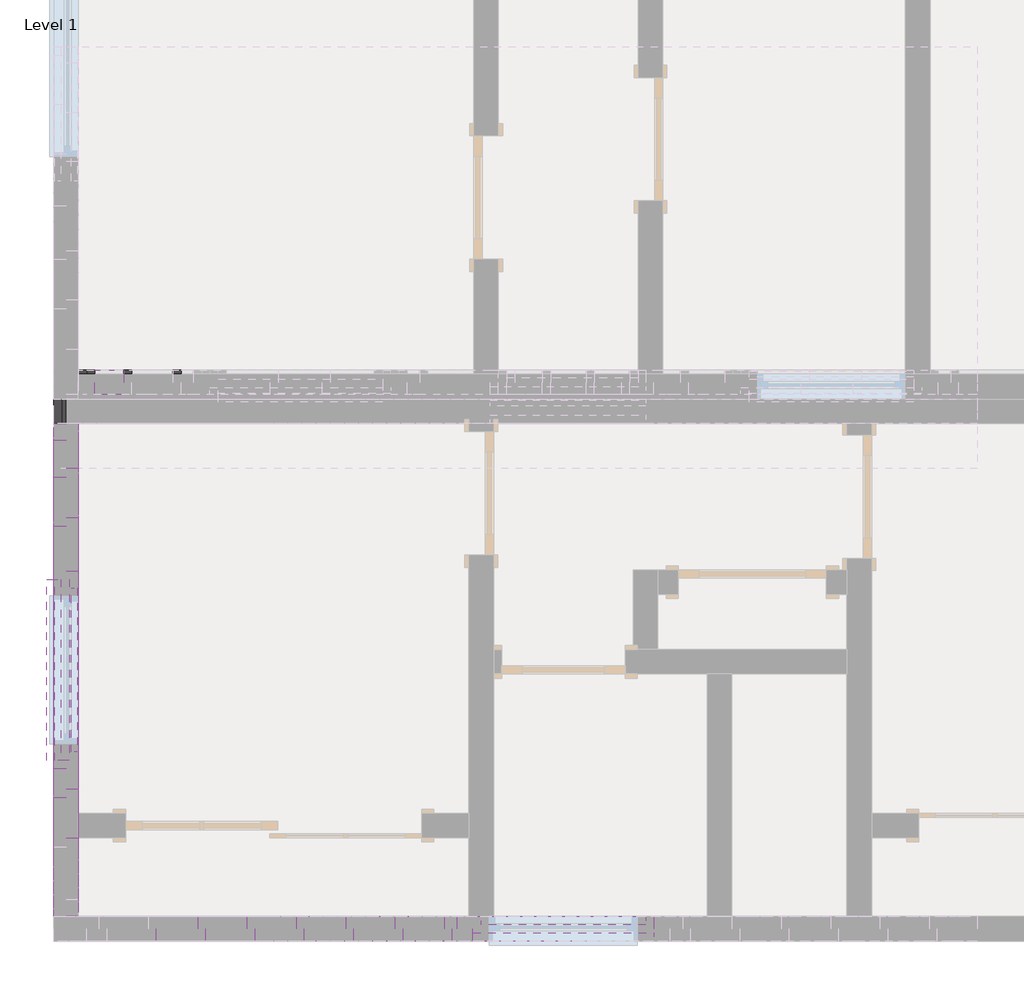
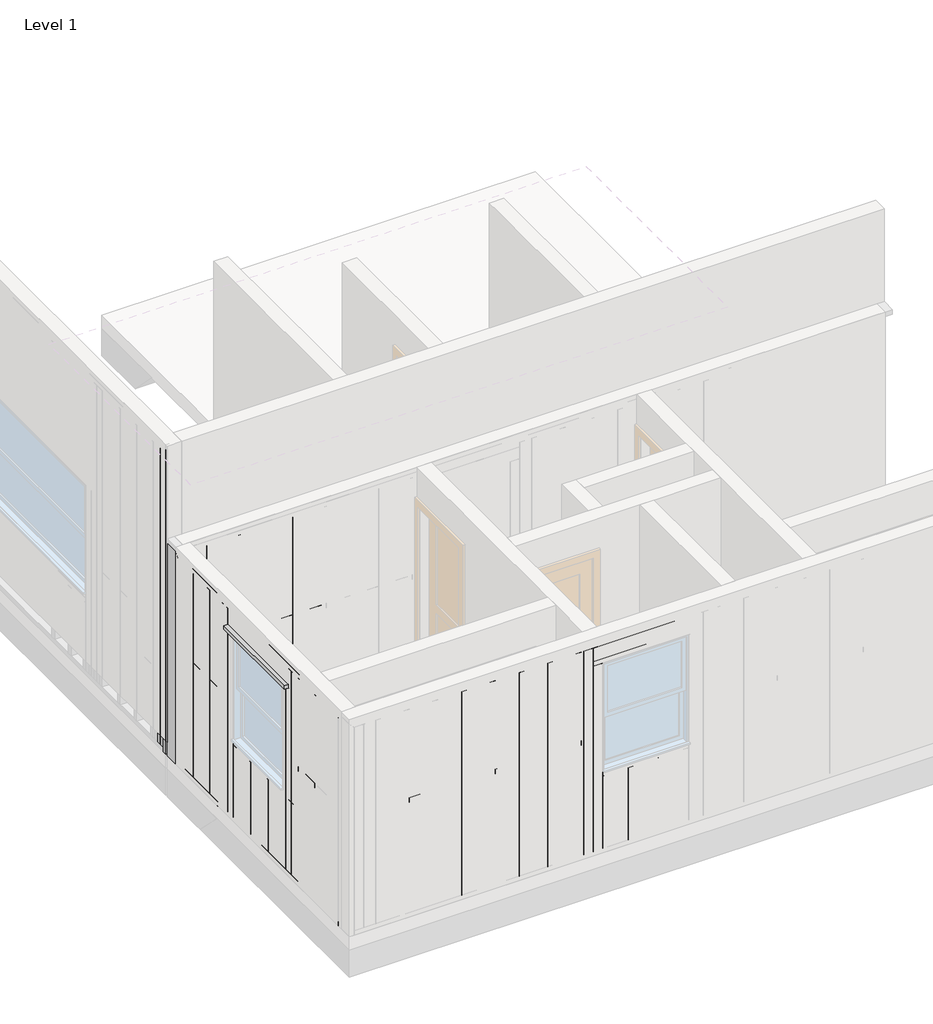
# One storey, part 3 of 12: 101 beams.
"""IFC4 building model written with IfcOpenShell, lengths in millimetres."""

from ifc_helpers import new_model, si_unit, frame, origin, origin_with_axes, place, context, project, spatial, polyline, outline, extrude, transform, mapped, element, save
from components import beam_5118db80, beam_bc29a762, beam_a10b1f24, beam_103141cb, beam_558964e0, beam_a7231d91, beam_303ef41e, beam_4715e774, beam_b7962ac8, beam_15472744, beam_b2f74068, beam_e05c4371, beam_19b97b81, beam_c305210a, beam_e041d9c6, beam_5d9cf81a, beam_ff6ccf8b, beam_9f6d142c, beam_b94c8671, beam_a4d90c35, beam_b09705a2, beam_b4be7421, beam_9d6aa0d6, beam_51b55d0f, beam_aca249a6, beam_68e625a2, beam_1fd180ee

model = new_model("IFC4")

# Units and contexts
model_context = context("Model", 3, world=origin())
ifc_project = project(units=[si_unit("LENGTHUNIT", "METRE", prefix="MILLI")], contexts=[model_context])

# Site, building, storey
site = spatial("IfcSite", under=ifc_project)
building = spatial("IfcBuilding", under=site)
storey = spatial("IfcBuildingStorey", under=building, Name="Level 1", Elevation=0.0)

# Beams
placement = place(None, origin())
element("IfcBeam", 1, ObjectType="Rectangular(Timber)-Beam : Timber_0' - 1 31/32\" x0' - 5 29/32\" _ContentGenerator", at=placement, inside=storey, context=model_context, shape_type="SweptSolid", body=[
    extrude(outline(polyline([(-8989.6690766, -28386.5763369), (-8938.8690766, -28386.5763369), (-8938.8690766, -28538.9763369), (-8989.6690766, -28538.9763369), (-8989.6690766, -28386.5763369)])), frame((0.0, 0.0, 50.8), z_axis=(0.0, 0.0, 1.0), x_axis=(1.0, 0.0, 0.0)), (0.0, 0.0, 1.0), 2286.0),
])
element("IfcBeam", 2, ObjectType="Rectangular(Timber)-Beam : Timber_0' - 1 31/32\" x0' - 5 29/32\" _ContentGenerator", at=placement, inside=storey, context=model_context, shape_type="SweptSolid", body=[
    extrude(outline(polyline([(-28335.7813369, 2336.8), (-28386.5813369, 2387.6), (-25338.5863369, 2387.6), (-25389.3863369, 2336.8), (-28335.7813369, 2336.8)])), frame((-11529.6790766, 0.0, 0.0), z_axis=(1.0, 0.0, 0.0), x_axis=(0.0, 1.0, 0.0)), (0.0, 0.0, 1.0), 152.4),
])
element("IfcBeam", 3, ObjectType="Rectangular(Timber)-Beam : Timber_0' - 1 31/32\" x0' - 5 29/32\" _ContentGenerator", at=placement, inside=storey, context=model_context, shape_type="SweptSolid", body=[
    extrude(outline(polyline([(-25389.3863369, 2336.8), (-25338.5863369, 2387.6), (-25338.5863369, 0.0), (-25389.3863369, 0.0), (-25389.3863369, 2336.8)])), frame((-11529.6790766, 0.0, 0.0), z_axis=(1.0, 0.0, 0.0), x_axis=(0.0, 1.0, 0.0)), (0.0, 0.0, 1.0), 152.4),
])
element("IfcBeam", 4, ObjectType="Rectangular(Timber)-Beam : Timber_0' - 1 31/32\" x0' - 5 29/32\" _ContentGenerator", at=placement, inside=storey, context=model_context, shape_type="SweptSolid", body=[
    extrude(outline(polyline([(-11377.2790766, -26252.9863369), (-11377.2790766, -26303.7863369), (-11529.6790766, -26303.7863369), (-11529.6790766, -26252.9863369), (-11377.2790766, -26252.9863369)])), frame((0.0, 0.0, 50.8), z_axis=(0.0, 0.0, 1.0), x_axis=(1.0, 0.0, 0.0)), (0.0, 0.0, 1.0), 2286.0),
])
element("IfcBeam", 5, ObjectType="Rectangular(Timber)-Beam : Timber_0' - 1 31/32\" x0' - 5 29/32\" _ContentGenerator", at=placement, inside=storey, context=model_context, shape_type="SweptSolid", body=[
    extrude(outline(polyline([(-11377.2790766, -27421.3663369), (-11377.2790766, -27472.1663369), (-11529.6790766, -27472.1663369), (-11529.6790766, -27421.3663369), (-11377.2790766, -27421.3663369)])), frame((0.0, 0.0, 50.8), z_axis=(0.0, 0.0, 1.0), x_axis=(1.0, 0.0, 0.0)), (0.0, 0.0, 1.0), 2286.0),
])
element("IfcBeam", 6, ObjectType="Rectangular(Timber)-Beam : Timber_0' - 1 31/32\" x0' - 5 29/32\" _ContentGenerator", at=placement, inside=storey, context=model_context, shape_type="SweptSolid", body=[
    extrude(outline(polyline([(2336.8, -11478.8840766), (2387.6, -11529.6840766), (0.0, -11529.6840766), (0.0, -11478.8840766), (2336.8, -11478.8840766)])), frame((0.0, -25338.5763369, 0.0), z_axis=(0.0, 1.0, 0.0), x_axis=(0.0, 0.0, 1.0)), (0.0, 0.0, 1.0), 152.4),
])
element("IfcBeam", 7, ObjectType="Rectangular(Timber)-Beam : Timber_0' - 1 31/32\" x0' - 5 29/32\" _ContentGenerator", at=placement, inside=storey, context=model_context, shape_type="SweptSolid", body=[
    extrude(outline(polyline([(3380.856975, -11326.4690766), (3431.656975, -11377.2690766), (0.0, -11377.2690766), (0.0, -11326.4690766), (3380.856975, -11326.4690766)])), frame((0.0, -25160.7763369, 0.0), z_axis=(0.0, 1.0, 0.0), x_axis=(0.0, 0.0, 1.0)), (0.0, 0.0, 1.0), 152.4),
])
element("IfcBeam", 8, ObjectType="Rectangular(Timber)-Beam : Timber_0' - 1 31/32\" x0' - 5 29/32\" _ContentGenerator", at=placement, inside=storey, context=model_context, shape_type="SweptSolid", body=[
    extrude(outline(polyline([(-11529.6790766, -25389.3863369), (-11377.2790766, -25389.3863369), (-11377.2790766, -28335.7813369), (-11529.6790766, -28335.7813369), (-11529.6790766, -25389.3863369)])), origin_with_axes(), (0.0, 0.0, 1.0), 50.8),
])
element("IfcBeam", 9, ObjectType="Rectangular(Timber)-Beam : Timber_0' - 1 31/32\" x0' - 5 29/32\" _ContentGenerator", at=placement, inside=storey, context=model_context, shape_type="SweptSolid", body=[
    extrude(outline(polyline([(-8781.3890766, -25186.1763369), (-8781.3890766, -25338.5763369), (-11478.8840766, -25338.5763369), (-11478.8840766, -25186.1763369), (-8781.3890766, -25186.1763369)])), origin_with_axes(), (0.0, 0.0, 1.0), 50.8),
])
element("IfcBeam", 10, ObjectType="Rectangular(Timber)-Beam : Timber_0' - 1 31/32\" x0' - 5 29/32\" _ContentGenerator", at=placement, inside=storey, context=model_context, shape_type="SweptSolid", body=[
    extrude(outline(polyline([(-25160.7813369, 3429.0), (-25109.9813369, 3378.2), (-25109.9813369, 0.0), (-25160.7813369, 0.0), (-25160.7813369, 3429.0)])), frame((-11529.6790766, 0.0, 0.0), z_axis=(1.0, 0.0, 0.0), x_axis=(0.0, 1.0, 0.0)), (0.0, 0.0, 1.0), 152.4),
])
element("IfcBeam", 11, ObjectType="Rectangular(Timber)-Beam : Timber_0' - 1 31/32\" x0' - 5 29/32\" _ContentGenerator", at=placement, inside=storey, context=model_context, shape_type="SweptSolid", body=[
    extrude(outline(polyline([(-11377.2790766, -25389.3863369), (-11377.2790766, -25440.1863369), (-11529.6790766, -25440.1863369), (-11529.6790766, -25389.3863369), (-11377.2790766, -25389.3863369)])), frame((0.0, 0.0, 50.8), z_axis=(0.0, 0.0, 1.0), x_axis=(1.0, 0.0, 0.0)), (0.0, 0.0, 1.0), 2286.0),
])
element("IfcBeam", 12, ObjectType="Rectangular(Timber)-Beam : Timber_0' - 1 31/32\" x0' - 5 29/32\" _ContentGenerator", at=placement, inside=storey, context=model_context, shape_type="SweptSolid", body=[
    extrude(outline(polyline([(-11377.2790766, -26202.1863369), (-11377.2790766, -26252.9863369), (-11529.6790766, -26252.9863369), (-11529.6790766, -26202.1863369), (-11377.2790766, -26202.1863369)])), frame((0.0, 0.0, 50.8), z_axis=(0.0, 0.0, 1.0), x_axis=(1.0, 0.0, 0.0)), (0.0, 0.0, 1.0), 2286.0),
])
element("IfcBeam", 13, ObjectType="Rectangular(Timber)-Beam : Timber_0' - 1 31/32\" x0' - 5 29/32\" _ContentGenerator", at=placement, inside=storey, context=model_context, shape_type="SweptSolid", body=[
    extrude(outline(polyline([(-11377.2790766, -27472.1463369), (-11377.2790766, -27522.9463369), (-11529.6790766, -27522.9463369), (-11529.6790766, -27472.1463369), (-11377.2790766, -27472.1463369)])), frame((0.0, 0.0, 50.8), z_axis=(0.0, 0.0, 1.0), x_axis=(1.0, 0.0, 0.0)), (0.0, 0.0, 1.0), 2286.0),
])
element("IfcBeam", 14, ObjectType="Rectangular(Timber)-Beam : Timber_0' - 1 31/32\" x0' - 5 29/32\" _ContentGenerator", at=placement, inside=storey, context=model_context, shape_type="SweptSolid", body=[
    extrude(outline(polyline([(-9040.4590766, -28386.5763369), (-8989.6590766, -28386.5763369), (-8989.6590766, -28538.9763369), (-9040.4590766, -28538.9763369), (-9040.4590766, -28386.5763369)])), frame((0.0, 0.0, 50.8), z_axis=(0.0, 0.0, 1.0), x_axis=(1.0, 0.0, 0.0)), (0.0, 0.0, 1.0), 2286.0),
])
beam_shape = beam_5118db80(model_context)
element("IfcBeam", 15, ObjectType="Rectangular(Timber)-Beam : Timber_0' - 1 31/32\" x0' - 5 29/32\" _ContentGenerator", at=placement, inside=storey, context=model_context, shape_type="MappedRepresentation", body=[
    mapped(beam_shape, transform((-11250.2740766, -25262.3763369, 1219.2), x_axis=(-1.0000000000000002, 0.0, 0.0), y_axis=(0.0, 0.0, -1.0000000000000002), z_axis=(0.0, -1.0000000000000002, 0.0))),
])
beam_2_shape = beam_bc29a762(model_context)
element("IfcBeam", 16, ObjectType="Rectangular(Timber)-Beam : Timber_0' - 1 31/32\" x0' - 5 29/32\" _ContentGenerator", at=placement, inside=storey, context=model_context, shape_type="MappedRepresentation", body=[
    mapped(beam_2_shape, transform((-11453.4790766, -26113.2813369, 1314.45), x_axis=(0.0, -1.0000000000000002, 0.0), y_axis=(0.0, 0.0, -1.0000000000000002), z_axis=(1.0000000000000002, 0.0, 0.0))),
])
beam_3_shape = beam_a10b1f24(model_context)
element("IfcBeam", 17, ObjectType="Rectangular(Timber)-Beam : Timber_0' - 1 31/32\" x0' - 5 29/32\" _ContentGenerator", at=placement, inside=storey, context=model_context, shape_type="MappedRepresentation", body=[
    mapped(beam_3_shape, transform((-8380.0790766, -28462.7763369, 2159.0), x_axis=(1.0000000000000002, 0.0, 0.0), y_axis=(0.0, 0.0, -1.0000000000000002), z_axis=(0.0, 1.0000000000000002, 0.0))),
])
element("IfcBeam", 18, ObjectType="Rectangular(Timber)-Beam : Timber_0' - 1 31/32\" x0' - 5 29/32\" _ContentGenerator", at=placement, inside=storey, context=model_context, shape_type="MappedRepresentation", body=[
    mapped(beam_3_shape, transform((-8380.0790766, -28513.5763369, 2260.6), x_axis=(1.0, 0.0, 0.0), y_axis=(0.0, 1.0, 0.0), z_axis=(0.0, 0.0, 1.0))),
])
beam_4_shape = beam_103141cb(model_context)
element("IfcBeam", 19, ObjectType="Rectangular(Timber)-Beam : Timber_0' - 1 31/32\" x0' - 5 29/32\" _ContentGenerator", at=placement, inside=storey, context=model_context, shape_type="MappedRepresentation", body=[
    mapped(beam_4_shape, transform((-9065.8690766, -28462.7763369, 1314.45), x_axis=(1.0000000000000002, 0.0, 0.0), y_axis=(0.0, 0.0, -1.0000000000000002), z_axis=(0.0, 1.0000000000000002, 0.0))),
])
beam_5_shape = beam_558964e0(model_context)
element("IfcBeam", 20, ObjectType="Rectangular(Timber)-Beam : Timber_0' - 1 31/32\" x0' - 5 29/32\" _ContentGenerator", at=placement, inside=storey, context=model_context, shape_type="MappedRepresentation", body=[
    mapped(beam_5_shape, transform((-10310.4790766, -28462.7763369, 1193.8), x_axis=(0.0, 0.0, 1.0), y_axis=(1.0, 0.0, 0.0), z_axis=(0.0, 1.0, 0.0))),
])
element("IfcBeam", 21, ObjectType="Rectangular(Timber)-Beam : Timber_0' - 1 31/32\" x0' - 5 29/32\" _ContentGenerator", at=placement, inside=storey, context=model_context, shape_type="MappedRepresentation", body=[
    mapped(beam_5_shape, transform((-10005.6790766, -28462.7763369, 1193.8), x_axis=(0.0, 0.0, 1.0), y_axis=(1.0, 0.0, 0.0), z_axis=(0.0, 1.0, 0.0))),
])
element("IfcBeam", 22, ObjectType="Rectangular(Timber)-Beam : Timber_0' - 1 31/32\" x0' - 5 29/32\" _ContentGenerator", at=placement, inside=storey, context=model_context, shape_type="MappedRepresentation", body=[
    mapped(beam_5_shape, transform((-9700.8790766, -28462.7763369, 1193.8), x_axis=(0.0, 0.0, 1.0), y_axis=(1.0, 0.0, 0.0), z_axis=(0.0, 1.0, 0.0))),
])
element("IfcBeam", 23, ObjectType="Rectangular(Timber)-Beam : Timber_0' - 1 31/32\" x0' - 5 29/32\" _ContentGenerator", at=placement, inside=storey, context=model_context, shape_type="MappedRepresentation", body=[
    mapped(beam_5_shape, transform((-9396.0790766, -28462.7763369, 1193.8), x_axis=(0.0, 0.0, 1.0), y_axis=(1.0, 0.0, 0.0), z_axis=(0.0, 1.0, 0.0))),
])
element("IfcBeam", 24, ObjectType="Rectangular(Timber)-Beam : Timber_0' - 1 31/32\" x0' - 5 29/32\" _ContentGenerator", at=placement, inside=storey, context=model_context, shape_type="MappedRepresentation", body=[
    mapped(beam_5_shape, transform((-9091.2790766, -28462.7763369, 1193.8), x_axis=(0.0, 0.0, 1.0), y_axis=(1.0, 0.0, 0.0), z_axis=(0.0, 1.0, 0.0))),
])
element("IfcBeam", 25, ObjectType="Rectangular(Timber)-Beam : Timber_0' - 1 31/32\" x0' - 5 29/32\" _ContentGenerator", at=placement, inside=storey, context=model_context, shape_type="MappedRepresentation", body=[
    mapped(beam_5_shape, transform((-11453.4790766, -25643.3763369, 1193.8), x_axis=(0.0, 0.0, 1.0), y_axis=(0.0, -1.0, 0.0), z_axis=(1.0, 0.0, 0.0))),
])
element("IfcBeam", 26, ObjectType="Rectangular(Timber)-Beam : Timber_0' - 1 31/32\" x0' - 5 29/32\" _ContentGenerator", at=placement, inside=storey, context=model_context, shape_type="MappedRepresentation", body=[
    mapped(beam_5_shape, transform((-11453.4790766, -25948.1763369, 1193.8), x_axis=(0.0, 0.0, 1.0), y_axis=(0.0, -1.0, 0.0), z_axis=(1.0, 0.0, 0.0))),
])
element("IfcBeam", 27, ObjectType="Rectangular(Timber)-Beam : Timber_0' - 1 31/32\" x0' - 5 29/32\" _ContentGenerator", at=placement, inside=storey, context=model_context, shape_type="MappedRepresentation", body=[
    mapped(beam_5_shape, transform((-11453.4790766, -27624.5763369, 1193.8), x_axis=(0.0, 0.0, 1.0), y_axis=(0.0, -1.0, 0.0), z_axis=(1.0, 0.0, 0.0))),
])
element("IfcBeam", 28, ObjectType="Rectangular(Timber)-Beam : Timber_0' - 1 31/32\" x0' - 5 29/32\" _ContentGenerator", at=placement, inside=storey, context=model_context, shape_type="MappedRepresentation", body=[
    mapped(beam_5_shape, transform((-11453.4790766, -27929.3763369, 1193.8), x_axis=(0.0, 0.0, 1.0), y_axis=(0.0, -1.0, 0.0), z_axis=(1.0, 0.0, 0.0))),
])
element("IfcBeam", 29, ObjectType="Rectangular(Timber)-Beam : Timber_0' - 1 31/32\" x0' - 5 29/32\" _ContentGenerator", at=placement, inside=storey, context=model_context, shape_type="MappedRepresentation", body=[
    mapped(beam_5_shape, transform((-11453.4890766, -25262.3763369, 1193.8), x_axis=(0.0, 0.0, 1.0), y_axis=(1.0, 0.0, 0.0), z_axis=(0.0, 1.0, 0.0))),
])
element("IfcBeam", 30, ObjectType="Rectangular(Timber)-Beam : Timber_0' - 1 31/32\" x0' - 5 29/32\" _ContentGenerator", at=placement, inside=storey, context=model_context, shape_type="MappedRepresentation", body=[
    mapped(beam_5_shape, transform((-11402.6890766, -25262.3763369, 1193.8), x_axis=(0.0, 0.0, 1.0), y_axis=(1.0, 0.0, 0.0), z_axis=(0.0, 1.0, 0.0))),
])
element("IfcBeam", 31, ObjectType="Rectangular(Timber)-Beam : Timber_0' - 1 31/32\" x0' - 5 29/32\" _ContentGenerator", at=placement, inside=storey, context=model_context, shape_type="MappedRepresentation", body=[
    mapped(beam_5_shape, transform((-10259.6790766, -25262.3763369, 1193.8), x_axis=(0.0, 0.0, 1.0), y_axis=(1.0, 0.0, 0.0), z_axis=(0.0, 1.0, 0.0))),
])
element("IfcBeam", 32, ObjectType="Rectangular(Timber)-Beam : Timber_0' - 1 31/32\" x0' - 5 29/32\" _ContentGenerator", at=placement, inside=storey, context=model_context, shape_type="MappedRepresentation", body=[
    mapped(beam_5_shape, transform((-10564.4790766, -25262.3763369, 1193.8), x_axis=(0.0, 0.0, 1.0), y_axis=(1.0, 0.0, 0.0), z_axis=(0.0, 1.0, 0.0))),
])
element("IfcBeam", 33, ObjectType="Rectangular(Timber)-Beam : Timber_0' - 1 31/32\" x0' - 5 29/32\" _ContentGenerator", at=placement, inside=storey, context=model_context, shape_type="MappedRepresentation", body=[
    mapped(beam_5_shape, transform((-10869.2790766, -25262.3763369, 1193.8), x_axis=(0.0, 0.0, 1.0), y_axis=(1.0, 0.0, 0.0), z_axis=(0.0, 1.0, 0.0))),
])
element("IfcBeam", 34, ObjectType="Rectangular(Timber)-Beam : Timber_0' - 1 31/32\" x0' - 5 29/32\" _ContentGenerator", at=placement, inside=storey, context=model_context, shape_type="MappedRepresentation", body=[
    mapped(beam_5_shape, transform((-11174.0790766, -25262.3763369, 1193.8), x_axis=(0.0, 0.0, 1.0), y_axis=(1.0, 0.0, 0.0), z_axis=(0.0, 1.0, 0.0))),
])
element("IfcBeam", 35, ObjectType="Rectangular(Timber)-Beam : Timber_0' - 1 31/32\" x0' - 5 29/32\" _ContentGenerator", at=placement, inside=storey, context=model_context, shape_type="MappedRepresentation", body=[
    mapped(beam_5_shape, transform((-11351.8690766, -25262.3763369, 1193.8), x_axis=(0.0, 0.0, 1.0), y_axis=(1.0, 0.0, 0.0), z_axis=(0.0, 1.0, 0.0))),
])
beam_6_shape = beam_a7231d91(model_context)
element("IfcBeam", 36, ObjectType="Rectangular(Timber)-Beam : Timber_0' - 1 31/32\" x0' - 5 29/32\" _ContentGenerator", at=placement, inside=storey, context=model_context, shape_type="MappedRepresentation", body=[
    mapped(beam_6_shape, transform((-8380.0790766, -28411.9763369, 2260.6), x_axis=(1.0, 0.0, 0.0), y_axis=(0.0, 1.0, 0.0), z_axis=(0.0, 0.0, 1.0))),
])
beam_7_shape = beam_303ef41e(model_context)
element("IfcBeam", 37, ObjectType="Rectangular(Timber)-Beam : Timber_0' - 1 31/32\" x0' - 5 29/32\" _ContentGenerator", at=placement, inside=storey, context=model_context, shape_type="MappedRepresentation", body=[
    mapped(beam_7_shape, transform((-11453.4790766, -26862.5763369, 2413.0), x_axis=(0.0, -1.0000000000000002, 0.0), y_axis=(0.0, 0.0, -1.0000000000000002), z_axis=(1.0000000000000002, 0.0, 0.0))),
])
beam_8_shape = beam_4715e774(model_context)
element("IfcBeam", 38, ObjectType="Rectangular(Timber)-Beam : Timber_0' - 1 31/32\" x0' - 5 29/32\" _ContentGenerator", at=placement, inside=storey, context=model_context, shape_type="MappedRepresentation", body=[
    mapped(beam_8_shape, transform((-8862.6690766, -28462.7763369, 1092.2), x_axis=(0.0, 0.0, 1.0), y_axis=(1.0, 0.0, 0.0), z_axis=(0.0, 1.0, 0.0))),
])
element("IfcBeam", 39, ObjectType="Rectangular(Timber)-Beam : Timber_0' - 1 31/32\" x0' - 5 29/32\" _ContentGenerator", at=placement, inside=storey, context=model_context, shape_type="MappedRepresentation", body=[
    mapped(beam_8_shape, transform((-8913.4590766, -28462.7763369, 1092.2), x_axis=(0.0, 0.0, 1.0), y_axis=(1.0, 0.0, 0.0), z_axis=(0.0, 1.0, 0.0))),
])
beam_9_shape = beam_b7962ac8(model_context)
element("IfcBeam", 40, ObjectType="Rectangular(Timber)-Beam : Timber_0' - 1 31/32\" x0' - 5 29/32\" _ContentGenerator", at=placement, inside=storey, context=model_context, shape_type="MappedRepresentation", body=[
    mapped(beam_9_shape, transform((-8811.8690766, -28462.7763369, 457.2), x_axis=(0.0, 0.0, 1.0), y_axis=(1.0, 0.0, 0.0), z_axis=(0.0, 1.0, 0.0))),
])
element("IfcBeam", 41, ObjectType="Rectangular(Timber)-Beam : Timber_0' - 1 31/32\" x0' - 5 29/32\" _ContentGenerator", at=placement, inside=storey, context=model_context, shape_type="MappedRepresentation", body=[
    mapped(beam_9_shape, transform((-8540.9457433, -28462.7763369, 457.2), x_axis=(0.0, 0.0, 1.0), y_axis=(1.0, 0.0, 0.0), z_axis=(0.0, 1.0, 0.0))),
])
element("IfcBeam", 42, ObjectType="Rectangular(Timber)-Beam : Timber_0' - 1 31/32\" x0' - 5 29/32\" _ContentGenerator", at=placement, inside=storey, context=model_context, shape_type="MappedRepresentation", body=[
    mapped(beam_9_shape, transform((-8219.2124099, -28462.7763369, 457.2), x_axis=(0.0, 0.0, 1.0), y_axis=(1.0, 0.0, 0.0), z_axis=(0.0, 1.0, 0.0))),
])
element("IfcBeam", 43, ObjectType="Rectangular(Timber)-Beam : Timber_0' - 1 31/32\" x0' - 5 29/32\" _ContentGenerator", at=placement, inside=storey, context=model_context, shape_type="MappedRepresentation", body=[
    mapped(beam_9_shape, transform((-11453.4790766, -26430.7863369, 457.2), x_axis=(0.0, 0.0, 1.0), y_axis=(0.0, -1.0, 0.0), z_axis=(1.0, 0.0, 0.0))),
])
element("IfcBeam", 44, ObjectType="Rectangular(Timber)-Beam : Timber_0' - 1 31/32\" x0' - 5 29/32\" _ContentGenerator", at=placement, inside=storey, context=model_context, shape_type="MappedRepresentation", body=[
    mapped(beam_9_shape, transform((-11453.4790766, -27294.3863369, 457.2), x_axis=(0.0, 0.0, 1.0), y_axis=(0.0, -1.0, 0.0), z_axis=(1.0, 0.0, 0.0))),
])
element("IfcBeam", 45, ObjectType="Rectangular(Timber)-Beam : Timber_0' - 1 31/32\" x0' - 5 29/32\" _ContentGenerator", at=placement, inside=storey, context=model_context, shape_type="MappedRepresentation", body=[
    mapped(beam_9_shape, transform((-11453.4790766, -26701.7096702, 457.2), x_axis=(0.0, 0.0, 1.0), y_axis=(0.0, -1.0, 0.0), z_axis=(1.0, 0.0, 0.0))),
])
element("IfcBeam", 46, ObjectType="Rectangular(Timber)-Beam : Timber_0' - 1 31/32\" x0' - 5 29/32\" _ContentGenerator", at=placement, inside=storey, context=model_context, shape_type="MappedRepresentation", body=[
    mapped(beam_9_shape, transform((-11453.4790766, -27023.4430036, 457.2), x_axis=(0.0, 0.0, 1.0), y_axis=(0.0, -1.0, 0.0), z_axis=(1.0, 0.0, 0.0))),
])
beam_10_shape = beam_15472744(model_context)
element("IfcBeam", 47, ObjectType="Rectangular(Timber)-Beam : Timber_0' - 1 31/32\" x0' - 5 29/32\" _ContentGenerator", at=placement, inside=storey, context=model_context, shape_type="MappedRepresentation", body=[
    mapped(beam_10_shape, transform((-11301.0690766, -25084.5763369, 1715.8284875), x_axis=(0.0, 0.0, 1.0), y_axis=(1.0, 0.0, 0.0), z_axis=(0.0, 1.0, 0.0))),
])
element("IfcBeam", 48, ObjectType="Rectangular(Timber)-Beam : Timber_0' - 1 31/32\" x0' - 5 29/32\" _ContentGenerator", at=placement, inside=storey, context=model_context, shape_type="MappedRepresentation", body=[
    mapped(beam_10_shape, transform((-11072.4790766, -25084.5763369, 1715.8284875), x_axis=(0.0, 0.0, 1.0), y_axis=(1.0, 0.0, 0.0), z_axis=(0.0, 1.0, 0.0))),
])
element("IfcBeam", 49, ObjectType="Rectangular(Timber)-Beam : Timber_0' - 1 31/32\" x0' - 5 29/32\" _ContentGenerator", at=placement, inside=storey, context=model_context, shape_type="MappedRepresentation", body=[
    mapped(beam_10_shape, transform((-10767.6790766, -25084.5763369, 1715.8284875), x_axis=(0.0, 0.0, 1.0), y_axis=(1.0, 0.0, 0.0), z_axis=(0.0, 1.0, 0.0))),
])
beam_11_shape = beam_b2f74068(model_context)
element("IfcBeam", 50, ObjectType="Rectangular(Timber)-Beam : Timber_0' - 1 31/32\" x0' - 5 29/32\" _ContentGenerator", at=placement, inside=storey, context=model_context, shape_type="MappedRepresentation", body=[
    mapped(beam_11_shape, transform((-11453.4790766, -25084.5813369, 1714.5), x_axis=(0.0, 0.0, 1.0), y_axis=(0.0, -1.0, 0.0), z_axis=(1.0, 0.0, 0.0))),
])
element("IfcBeam", 51, ObjectType="Rectangular(Timber)-Beam : Timber_0' - 1 31/32\" x0' - 5 29/32\" _ContentGenerator", at=placement, inside=storey, context=model_context, shape_type="MappedRepresentation", body=[
    mapped(beam_11_shape, transform((-11453.4790766, -25033.7813369, 1714.5), x_axis=(0.0, 0.0, 1.0), y_axis=(0.0, -1.0, 0.0), z_axis=(1.0, 0.0, 0.0))),
])
beam_12_shape = beam_e05c4371(model_context)
element("IfcBeam", 52, ObjectType="Rectangular(Timber)-Beam : Timber_0' - 1 31/32\" x0' - 5 29/32\" _ContentGenerator", at=placement, inside=storey, context=model_context, shape_type="MappedRepresentation", body=[
    mapped(beam_12_shape, transform((-8380.0690766, -28462.7763369, 889.0), x_axis=(1.0000000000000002, 0.0, 0.0), y_axis=(0.0, 0.0, -1.0000000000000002), z_axis=(0.0, 1.0000000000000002, 0.0))),
])
element("IfcBeam", 53, ObjectType="Rectangular(Timber)-Beam : Timber_0' - 1 31/32\" x0' - 5 29/32\" _ContentGenerator", at=placement, inside=storey, context=model_context, shape_type="MappedRepresentation", body=[
    mapped(beam_12_shape, transform((-11453.4790766, -26862.5863369, 889.0), x_axis=(0.0, -1.0000000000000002, 0.0), y_axis=(0.0, 0.0, -1.0000000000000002), z_axis=(1.0000000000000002, 0.0, 0.0))),
])
beam_13_shape = beam_19b97b81(model_context)
element("IfcBeam", 54, ObjectType="Rectangular(Timber)-Beam : Timber_0' - 1 31/32\" x0' - 5 29/32\" _ContentGenerator", at=placement, inside=storey, context=model_context, shape_type="MappedRepresentation", body=[
    mapped(beam_13_shape, transform((-10767.6790766, -28462.7763369, 1314.45), x_axis=(1.0000000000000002, 0.0, 0.0), y_axis=(0.0, 0.0, -1.0000000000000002), z_axis=(0.0, 1.0000000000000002, 0.0))),
])
element("IfcBeam", 55, ObjectType="Rectangular(Timber)-Beam : Timber_0' - 1 31/32\" x0' - 5 29/32\" _ContentGenerator", at=placement, inside=storey, context=model_context, shape_type="MappedRepresentation", body=[
    mapped(beam_13_shape, transform((-10462.8790766, -28462.7763369, 1314.45), x_axis=(1.0000000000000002, 0.0, 0.0), y_axis=(0.0, 0.0, -1.0000000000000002), z_axis=(0.0, 1.0000000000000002, 0.0))),
])
element("IfcBeam", 56, ObjectType="Rectangular(Timber)-Beam : Timber_0' - 1 31/32\" x0' - 5 29/32\" _ContentGenerator", at=placement, inside=storey, context=model_context, shape_type="MappedRepresentation", body=[
    mapped(beam_13_shape, transform((-10158.0790766, -28462.7763369, 1314.45), x_axis=(1.0000000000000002, 0.0, 0.0), y_axis=(0.0, 0.0, -1.0000000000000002), z_axis=(0.0, 1.0000000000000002, 0.0))),
])
element("IfcBeam", 57, ObjectType="Rectangular(Timber)-Beam : Timber_0' - 1 31/32\" x0' - 5 29/32\" _ContentGenerator", at=placement, inside=storey, context=model_context, shape_type="MappedRepresentation", body=[
    mapped(beam_13_shape, transform((-9853.2790766, -28462.7763369, 1314.45), x_axis=(1.0000000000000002, 0.0, 0.0), y_axis=(0.0, 0.0, -1.0000000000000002), z_axis=(0.0, 1.0000000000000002, 0.0))),
])
element("IfcBeam", 58, ObjectType="Rectangular(Timber)-Beam : Timber_0' - 1 31/32\" x0' - 5 29/32\" _ContentGenerator", at=placement, inside=storey, context=model_context, shape_type="MappedRepresentation", body=[
    mapped(beam_13_shape, transform((-9548.4790766, -28462.7763369, 1314.45), x_axis=(1.0000000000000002, 0.0, 0.0), y_axis=(0.0, 0.0, -1.0000000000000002), z_axis=(0.0, 1.0000000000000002, 0.0))),
])
element("IfcBeam", 59, ObjectType="Rectangular(Timber)-Beam : Timber_0' - 1 31/32\" x0' - 5 29/32\" _ContentGenerator", at=placement, inside=storey, context=model_context, shape_type="MappedRepresentation", body=[
    mapped(beam_13_shape, transform((-9243.6790766, -28462.7763369, 1314.45), x_axis=(1.0000000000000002, 0.0, 0.0), y_axis=(0.0, 0.0, -1.0000000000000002), z_axis=(0.0, 1.0000000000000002, 0.0))),
])
element("IfcBeam", 60, ObjectType="Rectangular(Timber)-Beam : Timber_0' - 1 31/32\" x0' - 5 29/32\" _ContentGenerator", at=placement, inside=storey, context=model_context, shape_type="MappedRepresentation", body=[
    mapped(beam_13_shape, transform((-11453.4790766, -25795.7763369, 1314.45), x_axis=(0.0, -1.0000000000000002, 0.0), y_axis=(0.0, 0.0, -1.0000000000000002), z_axis=(1.0000000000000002, 0.0, 0.0))),
])
element("IfcBeam", 61, ObjectType="Rectangular(Timber)-Beam : Timber_0' - 1 31/32\" x0' - 5 29/32\" _ContentGenerator", at=placement, inside=storey, context=model_context, shape_type="MappedRepresentation", body=[
    mapped(beam_13_shape, transform((-11453.4790766, -27776.9763369, 1314.45), x_axis=(0.0, -1.0000000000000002, 0.0), y_axis=(0.0, 0.0, -1.0000000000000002), z_axis=(1.0000000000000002, 0.0, 0.0))),
])
element("IfcBeam", 62, ObjectType="Rectangular(Timber)-Beam : Timber_0' - 1 31/32\" x0' - 5 29/32\" _ContentGenerator", at=placement, inside=storey, context=model_context, shape_type="MappedRepresentation", body=[
    mapped(beam_13_shape, transform((-10107.2790766, -25262.3763369, 1219.2), x_axis=(-1.0000000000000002, 0.0, 0.0), y_axis=(0.0, 0.0, -1.0000000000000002), z_axis=(0.0, -1.0000000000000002, 0.0))),
])
element("IfcBeam", 63, ObjectType="Rectangular(Timber)-Beam : Timber_0' - 1 31/32\" x0' - 5 29/32\" _ContentGenerator", at=placement, inside=storey, context=model_context, shape_type="MappedRepresentation", body=[
    mapped(beam_13_shape, transform((-10412.0790766, -25262.3763369, 1219.2), x_axis=(-1.0000000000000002, 0.0, 0.0), y_axis=(0.0, 0.0, -1.0000000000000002), z_axis=(0.0, -1.0000000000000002, 0.0))),
])
element("IfcBeam", 64, ObjectType="Rectangular(Timber)-Beam : Timber_0' - 1 31/32\" x0' - 5 29/32\" _ContentGenerator", at=placement, inside=storey, context=model_context, shape_type="MappedRepresentation", body=[
    mapped(beam_13_shape, transform((-10716.8790766, -25262.3763369, 1219.2), x_axis=(-1.0000000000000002, 0.0, 0.0), y_axis=(0.0, 0.0, -1.0000000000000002), z_axis=(0.0, -1.0000000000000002, 0.0))),
])
element("IfcBeam", 65, ObjectType="Rectangular(Timber)-Beam : Timber_0' - 1 31/32\" x0' - 5 29/32\" _ContentGenerator", at=placement, inside=storey, context=model_context, shape_type="MappedRepresentation", body=[
    mapped(beam_13_shape, transform((-11021.6790766, -25262.3763369, 1219.2), x_axis=(-1.0000000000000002, 0.0, 0.0), y_axis=(0.0, 0.0, -1.0000000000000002), z_axis=(0.0, -1.0000000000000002, 0.0))),
])
beam_14_shape = beam_c305210a(model_context)
element("IfcBeam", 66, ObjectType="Rectangular(Timber)-Beam : Timber_0' - 1 31/32\" x0' - 5 29/32\" _ContentGenerator", at=placement, inside=storey, context=model_context, shape_type="MappedRepresentation", body=[
    mapped(beam_14_shape, transform((-11453.4790766, -27535.6713369, 1314.45), x_axis=(0.0, -1.0000000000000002, 0.0), y_axis=(0.0, 0.0, -1.0000000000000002), z_axis=(1.0000000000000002, 0.0, 0.0))),
])
beam_15_shape = beam_e041d9c6(model_context)
element("IfcBeam", 67, ObjectType="Rectangular(Timber)-Beam : Timber_0' - 1 31/32\" x0' - 5 29/32\" _ContentGenerator", at=placement, inside=storey, context=model_context, shape_type="MappedRepresentation", body=[
    mapped(beam_15_shape, transform((-11453.4790766, -25529.0813369, 1314.45), x_axis=(0.0, -1.0000000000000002, 0.0), y_axis=(0.0, 0.0, -1.0000000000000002), z_axis=(1.0000000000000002, 0.0, 0.0))),
])
element("IfcBeam", 68, ObjectType="Rectangular(Timber)-Beam : Timber_0' - 1 31/32\" x0' - 5 29/32\" _ContentGenerator", at=placement, inside=storey, context=model_context, shape_type="MappedRepresentation", body=[
    mapped(beam_15_shape, transform((-11186.7740766, -25084.5763369, 1314.45), x_axis=(1.0000000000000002, 0.0, 0.0), y_axis=(0.0, 0.0, -1.0000000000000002), z_axis=(0.0, 1.0000000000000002, 0.0))),
])
beam_16_shape = beam_5d9cf81a(model_context)
element("IfcBeam", 69, ObjectType="Rectangular(Timber)-Beam : Timber_0' - 1 31/32\" x0' - 5 29/32\" _ContentGenerator", at=placement, inside=storey, context=model_context, shape_type="MappedRepresentation", body=[
    mapped(beam_16_shape, transform((-11453.4790766, -26379.9863369, 1084.2625), x_axis=(0.0, 0.0, 1.0), y_axis=(0.0, -1.0, 0.0), z_axis=(1.0, 0.0, 0.0))),
])
element("IfcBeam", 70, ObjectType="Rectangular(Timber)-Beam : Timber_0' - 1 31/32\" x0' - 5 29/32\" _ContentGenerator", at=placement, inside=storey, context=model_context, shape_type="MappedRepresentation", body=[
    mapped(beam_16_shape, transform((-11453.4790766, -27345.1863369, 1084.2625), x_axis=(0.0, 0.0, 1.0), y_axis=(0.0, -1.0, 0.0), z_axis=(1.0, 0.0, 0.0))),
])
element("IfcBeam", 71, ObjectType="Rectangular(Timber)-Beam : Timber_0' - 1 31/32\" x0' - 5 29/32\" _ContentGenerator", at=placement, inside=storey, context=model_context, shape_type="MappedRepresentation", body=[
    mapped(beam_16_shape, transform((-11453.4790766, -26329.1863369, 1084.2625), x_axis=(0.0, 0.0, 1.0), y_axis=(0.0, -1.0, 0.0), z_axis=(1.0, 0.0, 0.0))),
])
element("IfcBeam", 72, ObjectType="Rectangular(Timber)-Beam : Timber_0' - 1 31/32\" x0' - 5 29/32\" _ContentGenerator", at=placement, inside=storey, context=model_context, shape_type="MappedRepresentation", body=[
    mapped(beam_16_shape, transform((-11453.4790766, -27395.9863369, 1084.2625), x_axis=(0.0, 0.0, 1.0), y_axis=(0.0, -1.0, 0.0), z_axis=(1.0, 0.0, 0.0))),
])
beam_17_shape = beam_ff6ccf8b(model_context)
element("IfcBeam", 73, ObjectType="WallPlates : 6\" x 2\"", at=placement, inside=storey, context=model_context, shape_type="MappedRepresentation", body=[
    mapped(beam_17_shape, transform((-11504.2790766, -26862.5763369, 2136.775), x_axis=(0.0, 1.0, 0.0), y_axis=(-1.0, 0.0, 0.0), z_axis=(0.0, 0.0, 1.0))),
])
beam_18_shape = beam_9f6d142c(model_context)
element("IfcBeam", 74, ObjectType="WallPlates : 6\" x 3\"", at=placement, inside=storey, context=model_context, shape_type="MappedRepresentation", body=[
    mapped(beam_18_shape, transform((-11290.9240766, -25262.3763369, 1123.95), x_axis=(-1.0000000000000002, 0.0, 0.0), y_axis=(0.0, 0.0, -1.0000000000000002), z_axis=(0.0, -1.0000000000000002, 0.0))),
])
beam_19_shape = beam_b94c8671(model_context)
element("IfcBeam", 75, ObjectType="WallPlates : 6\" x 3\"", at=placement, inside=storey, context=model_context, shape_type="MappedRepresentation", body=[
    mapped(beam_19_shape, transform((-11494.7540766, -26566.2480036, 793.75), x_axis=(0.0, -1.0000000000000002, 0.0), y_axis=(0.0, 0.0, -1.0000000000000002), z_axis=(1.0000000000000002, 0.0, 0.0))),
])
beam_20_shape = beam_a4d90c35(model_context)
element("IfcBeam", 76, ObjectType="WallPlates : 6\" x 3\"", at=placement, inside=storey, context=model_context, shape_type="MappedRepresentation", body=[
    mapped(beam_20_shape, transform((-10615.2790766, -25125.8513369, 1219.2), x_axis=(1.0000000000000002, 0.0, 0.0), y_axis=(0.0, 0.0, -1.0000000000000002), z_axis=(0.0, 1.0000000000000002, 0.0))),
])
beam_21_shape = beam_b09705a2(model_context)
element("IfcBeam", 77, ObjectType="WallPlates : 6\" x 3\"", at=placement, inside=storey, context=model_context, shape_type="MappedRepresentation", body=[
    mapped(beam_21_shape, transform((-11494.7540766, -26862.5763369, 793.75), x_axis=(0.0, -1.0000000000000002, 0.0), y_axis=(0.0, 0.0, -1.0000000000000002), z_axis=(1.0000000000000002, 0.0, 0.0))),
])
element("IfcBeam", 78, ObjectType="WallPlates : 6\" x 3\"", at=placement, inside=storey, context=model_context, shape_type="MappedRepresentation", body=[
    mapped(beam_19_shape, transform((-11494.7540766, -27158.9046702, 793.75), x_axis=(0.0, -1.0000000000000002, 0.0), y_axis=(0.0, 0.0, -1.0000000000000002), z_axis=(1.0000000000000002, 0.0, 0.0))),
])
beam_22_shape = beam_b4be7421(model_context)
element("IfcBeam", 79, ObjectType="WallPlates : 6\" x 3\"", at=placement, inside=storey, context=model_context, shape_type="MappedRepresentation", body=[
    mapped(beam_22_shape, transform((-9078.5690766, -28504.0513369, 1219.2), x_axis=(1.0000000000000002, 0.0, 0.0), y_axis=(0.0, 0.0, -1.0000000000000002), z_axis=(0.0, 1.0000000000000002, 0.0))),
])
beam_23_shape = beam_9d6aa0d6(model_context)
element("IfcBeam", 80, ObjectType="WallPlates : 6\" x 3\"", at=placement, inside=storey, context=model_context, shape_type="MappedRepresentation", body=[
    mapped(beam_23_shape, transform((-11494.7540766, -25770.3763369, 1219.2), x_axis=(0.0, -1.0000000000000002, 0.0), y_axis=(0.0, 0.0, -1.0000000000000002), z_axis=(1.0000000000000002, 0.0, 0.0))),
])
element("IfcBeam", 81, ObjectType="WallPlates : 6\" x 3\"", at=placement, inside=storey, context=model_context, shape_type="MappedRepresentation", body=[
    mapped(beam_23_shape, transform((-11494.7540766, -27751.5763369, 1219.2), x_axis=(0.0, -1.0000000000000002, 0.0), y_axis=(0.0, 0.0, -1.0000000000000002), z_axis=(1.0000000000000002, 0.0, 0.0))),
])
element("IfcBeam", 82, ObjectType="WallPlates : 6\" x 3\"", at=placement, inside=storey, context=model_context, shape_type="MappedRepresentation", body=[
    mapped(beam_23_shape, transform((-10793.0790766, -28504.0513369, 1219.2), x_axis=(1.0000000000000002, 0.0, 0.0), y_axis=(0.0, 0.0, -1.0000000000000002), z_axis=(0.0, 1.0000000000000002, 0.0))),
])
element("IfcBeam", 83, ObjectType="WallPlates : 6\" x 3\"", at=placement, inside=storey, context=model_context, shape_type="MappedRepresentation", body=[
    mapped(beam_23_shape, transform((-10488.2790766, -28504.0513369, 1219.2), x_axis=(1.0000000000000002, 0.0, 0.0), y_axis=(0.0, 0.0, -1.0000000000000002), z_axis=(0.0, 1.0000000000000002, 0.0))),
])
element("IfcBeam", 84, ObjectType="WallPlates : 6\" x 3\"", at=placement, inside=storey, context=model_context, shape_type="MappedRepresentation", body=[
    mapped(beam_23_shape, transform((-10183.4790766, -28504.0513369, 1219.2), x_axis=(1.0000000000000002, 0.0, 0.0), y_axis=(0.0, 0.0, -1.0000000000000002), z_axis=(0.0, 1.0000000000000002, 0.0))),
])
element("IfcBeam", 85, ObjectType="WallPlates : 6\" x 3\"", at=placement, inside=storey, context=model_context, shape_type="MappedRepresentation", body=[
    mapped(beam_23_shape, transform((-9878.6790766, -28504.0513369, 1219.2), x_axis=(1.0000000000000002, 0.0, 0.0), y_axis=(0.0, 0.0, -1.0000000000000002), z_axis=(0.0, 1.0000000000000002, 0.0))),
])
element("IfcBeam", 86, ObjectType="WallPlates : 6\" x 3\"", at=placement, inside=storey, context=model_context, shape_type="MappedRepresentation", body=[
    mapped(beam_23_shape, transform((-9573.8790766, -28504.0513369, 1219.2), x_axis=(1.0000000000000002, 0.0, 0.0), y_axis=(0.0, 0.0, -1.0000000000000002), z_axis=(0.0, 1.0000000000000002, 0.0))),
])
element("IfcBeam", 87, ObjectType="WallPlates : 6\" x 3\"", at=placement, inside=storey, context=model_context, shape_type="MappedRepresentation", body=[
    mapped(beam_23_shape, transform((-9269.0790766, -28504.0513369, 1219.2), x_axis=(1.0000000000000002, 0.0, 0.0), y_axis=(0.0, 0.0, -1.0000000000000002), z_axis=(0.0, 1.0000000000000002, 0.0))),
])
element("IfcBeam", 88, ObjectType="WallPlates : 6\" x 3\"", at=placement, inside=storey, context=model_context, shape_type="MappedRepresentation", body=[
    mapped(beam_23_shape, transform((-11494.7540766, -25770.3763369, 793.75), x_axis=(0.0, -1.0000000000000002, 0.0), y_axis=(0.0, 0.0, -1.0000000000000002), z_axis=(1.0000000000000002, 0.0, 0.0))),
])
element("IfcBeam", 89, ObjectType="WallPlates : 6\" x 3\"", at=placement, inside=storey, context=model_context, shape_type="MappedRepresentation", body=[
    mapped(beam_23_shape, transform((-11494.7540766, -27751.5763369, 793.75), x_axis=(0.0, -1.0000000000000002, 0.0), y_axis=(0.0, 0.0, -1.0000000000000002), z_axis=(1.0000000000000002, 0.0, 0.0))),
])
element("IfcBeam", 90, ObjectType="WallPlates : 6\" x 3\"", at=placement, inside=storey, context=model_context, shape_type="MappedRepresentation", body=[
    mapped(beam_20_shape, transform((-10920.0790766, -25125.8513369, 1219.2), x_axis=(1.0000000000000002, 0.0, 0.0), y_axis=(0.0, 0.0, -1.0000000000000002), z_axis=(0.0, 1.0000000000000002, 0.0))),
])
element("IfcBeam", 91, ObjectType="WallPlates : 6\" x 3\"", at=placement, inside=storey, context=model_context, shape_type="MappedRepresentation", body=[
    mapped(beam_20_shape, transform((-11021.6790766, -25262.3763369, 1123.95), x_axis=(-1.0000000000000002, 0.0, 0.0), y_axis=(0.0, 0.0, -1.0000000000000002), z_axis=(0.0, -1.0000000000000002, 0.0))),
])
beam_24_shape = beam_51b55d0f(model_context)
element("IfcBeam", 92, ObjectType="WallPlates : 6\" x 3\"", at=placement, inside=storey, context=model_context, shape_type="MappedRepresentation", body=[
    mapped(beam_24_shape, transform((-11494.7540766, -25529.0813369, 1219.2), x_axis=(0.0, -1.0000000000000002, 0.0), y_axis=(0.0, 0.0, -1.0000000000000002), z_axis=(1.0000000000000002, 0.0, 0.0))),
])
element("IfcBeam", 93, ObjectType="WallPlates : 6\" x 3\"", at=placement, inside=storey, context=model_context, shape_type="MappedRepresentation", body=[
    mapped(beam_24_shape, transform((-11494.7540766, -27510.2813369, 1219.2), x_axis=(0.0, -1.0000000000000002, 0.0), y_axis=(0.0, 0.0, -1.0000000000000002), z_axis=(1.0000000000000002, 0.0, 0.0))),
])
element("IfcBeam", 94, ObjectType="WallPlates : 6\" x 3\"", at=placement, inside=storey, context=model_context, shape_type="MappedRepresentation", body=[
    mapped(beam_24_shape, transform((-11494.7540766, -25529.0813369, 793.75), x_axis=(0.0, -1.0000000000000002, 0.0), y_axis=(0.0, 0.0, -1.0000000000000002), z_axis=(1.0000000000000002, 0.0, 0.0))),
])
element("IfcBeam", 95, ObjectType="WallPlates : 6\" x 3\"", at=placement, inside=storey, context=model_context, shape_type="MappedRepresentation", body=[
    mapped(beam_24_shape, transform((-11494.7540766, -27510.2813369, 793.75), x_axis=(0.0, -1.0000000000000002, 0.0), y_axis=(0.0, 0.0, -1.0000000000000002), z_axis=(1.0000000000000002, 0.0, 0.0))),
])
element("IfcBeam", 96, ObjectType="WallPlates : 6\" x 3\"", at=placement, inside=storey, context=model_context, shape_type="MappedRepresentation", body=[
    mapped(beam_24_shape, transform((-11186.7740766, -25125.8513369, 809.8890829), x_axis=(1.0000000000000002, 0.0, 0.0), y_axis=(0.0, 0.0, -1.0000000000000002), z_axis=(0.0, 1.0000000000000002, 0.0))),
])
beam_25_shape = beam_aca249a6(model_context)
element("IfcBeam", 97, ObjectType="WallPlates : 6\" x 3\"", at=placement, inside=storey, context=model_context, shape_type="MappedRepresentation", body=[
    mapped(beam_25_shape, transform((-11494.7540766, -26113.2813369, 1219.2), x_axis=(0.0, -1.0000000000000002, 0.0), y_axis=(0.0, 0.0, -1.0000000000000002), z_axis=(1.0000000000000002, 0.0, 0.0))),
])
element("IfcBeam", 98, ObjectType="WallPlates : 6\" x 3\"", at=placement, inside=storey, context=model_context, shape_type="MappedRepresentation", body=[
    mapped(beam_25_shape, transform((-11494.7540766, -26113.2813369, 793.75), x_axis=(0.0, -1.0000000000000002, 0.0), y_axis=(0.0, 0.0, -1.0000000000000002), z_axis=(1.0000000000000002, 0.0, 0.0))),
])
element("IfcBeam", 99, ObjectType="WallPlates : 6\" x 3\"", at=placement, inside=storey, context=model_context, shape_type="MappedRepresentation", body=[
    mapped(beam_24_shape, transform((-11186.7740766, -25125.8513369, 1219.2), x_axis=(1.0000000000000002, 0.0, 0.0), y_axis=(0.0, 0.0, -1.0000000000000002), z_axis=(0.0, 1.0000000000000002, 0.0))),
])
beam_26_shape = beam_68e625a2(model_context)
element("IfcBeam", 100, ObjectType="WallPlates : 8\" x 2\"", at=placement, inside=storey, context=model_context, shape_type="MappedRepresentation", body=[
    mapped(beam_26_shape, transform((-11504.2790766, -26862.5763369, 2247.9), x_axis=(0.0, -1.0, 0.0), y_axis=(0.0, 0.0, -1.0), z_axis=(1.0, 0.0, 0.0))),
])
beam_27_shape = beam_1fd180ee(model_context)
element("IfcBeam", 101, ObjectType="WallPlates : 8\" x 2\"", at=placement, inside=storey, context=model_context, shape_type="MappedRepresentation", body=[
    mapped(beam_27_shape, transform((-11402.6790766, -26862.5763369, 2244.725), x_axis=(0.0, -1.0, 0.0), y_axis=(0.0, 0.0, -1.0), z_axis=(1.0, 0.0, 0.0))),
])

save(model, "model.ifc")
